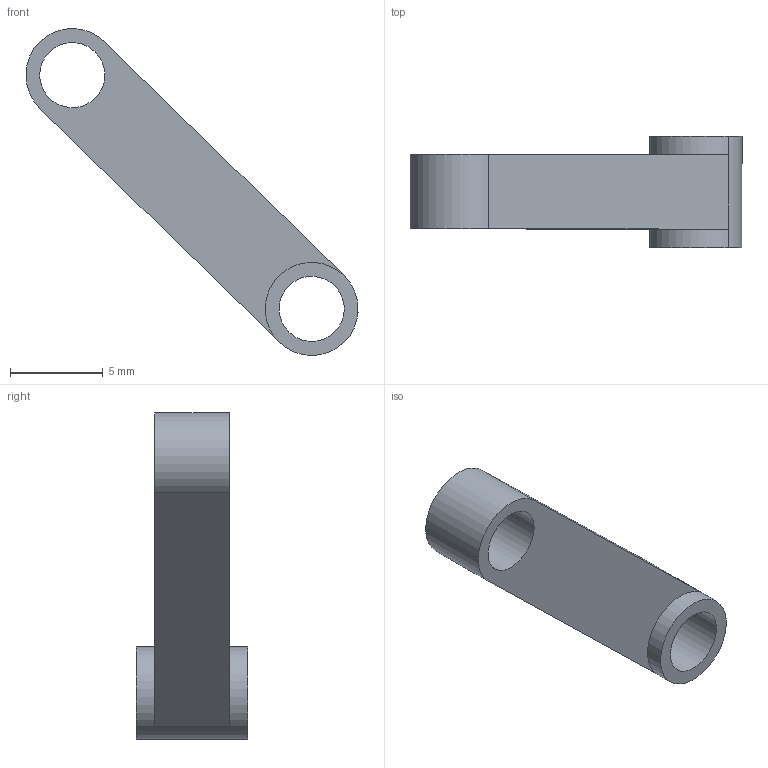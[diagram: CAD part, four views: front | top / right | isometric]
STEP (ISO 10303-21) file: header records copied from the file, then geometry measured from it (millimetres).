
FILE_DESCRIPTION( ('This file contains a STEP AP42 implementation' ,'as created by ZW3D STEP Interface translator.') ,'2;1' );
FILE_NAME( 'zkj-蟀裝.stp' ,'23 9 3.214431', (''), ('ZWCAD Software Co.'), 'Version 1.0', 'ZW3D to STEP translator', '' );
FILE_SCHEMA(('AUTOMOTIVE_DESIGN { 1 0 10303 214 1 1 1 1 }'));
Length unit declared in the file: millimetre
Products named in the file (2): 0; zkj-蟀裝
Bounding box: 17.86 x 6 x 17.56 mm (x, y, z)
Volume: 381.6 mm3; surface area: 529 mm2
Topology: 1 solids, 1 shells, 14 faces, 32 edges, 20 vertices
Faces by surface type: cylinder 8, plane 6
Entity records: 452 total; most frequent: DIRECTION 78, CARTESIAN_POINT 67, ORIENTED_EDGE 64, EDGE_CURVE 32, AXIS2_PLACEMENT_3D 31, VERTEX_POINT 20, EDGE_LOOP 18, CIRCLE 16
